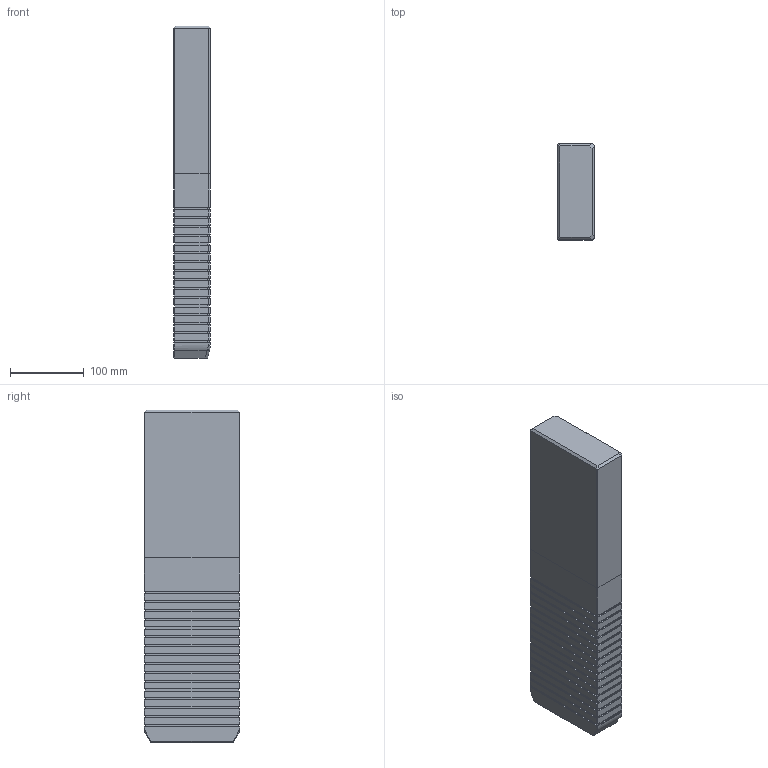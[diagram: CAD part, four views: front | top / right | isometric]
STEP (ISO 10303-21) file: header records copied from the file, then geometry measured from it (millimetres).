
FILE_DESCRIPTION((''),'2;1');
FILE_NAME('','2010-08-30T13:17:47+09:00',('misumi'),(''),'M/STEP i/f 1R2-14','CADmeister v5.1','');
FILE_SCHEMA(('AUTOMOTIVE_DESIGN'));
Length unit declared in the file: millimetre
Products named in the file (1): GWZ130-450
Bounding box: 50 x 130 x 450 mm (x, y, z)
Volume: 2879853 mm3; surface area: 188233.9 mm2
Topology: 1 solids, 1 shells, 336 faces, 881 edges, 580 vertices
Faces by surface type: plane 323, bspline 6, cylinder 5, cone 2
Entity records: 10471 total; most frequent: CARTESIAN_POINT 2140, ORIENTED_EDGE 1762, DIRECTION 1533, EDGE_CURVE 881, LINE 855, VECTOR 855, VERTEX_POINT 580, EDGE_LOOP 369
